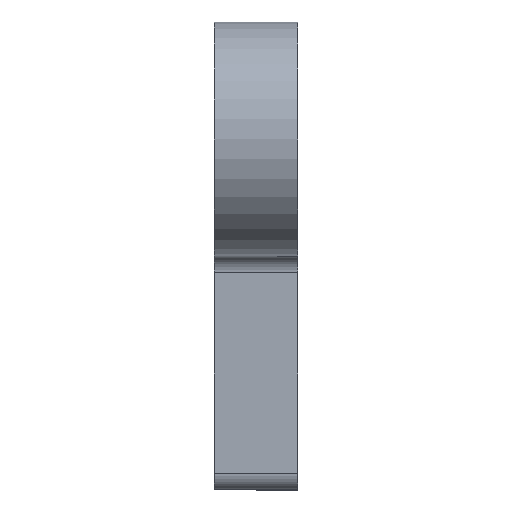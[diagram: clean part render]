
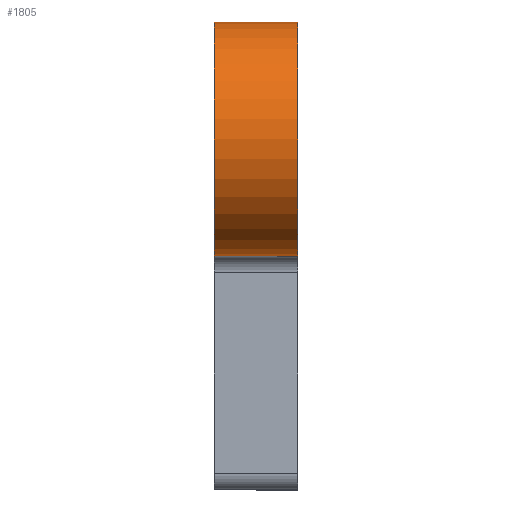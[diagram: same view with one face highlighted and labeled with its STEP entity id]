
A CAD part, left-side view. The second image highlights one B-rep face of the part: STEP entity #1805.
In plain terms, the highlighted cylindrical face has radius 7 mm (diameter 14 mm), a partial arc.
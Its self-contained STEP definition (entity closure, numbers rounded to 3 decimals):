
#112=FACE_OUTER_BOUND('',#212,.T.);
#212=EDGE_LOOP('',(#1232,#1233,#1234,#1235));
#330=LINE('',#2689,#514);
#331=LINE('',#2692,#515);
#514=VECTOR('',#2121,10.);
#515=VECTOR('',#2124,10.);
#698=CIRCLE('',#1922,7.);
#699=CIRCLE('',#1923,7.);
#786=VERTEX_POINT('',#2685);
#787=VERTEX_POINT('',#2686);
#788=VERTEX_POINT('',#2688);
#789=VERTEX_POINT('',#2690);
#960=EDGE_CURVE('',#786,#787,#698,.T.);
#961=EDGE_CURVE('',#788,#786,#330,.T.);
#962=EDGE_CURVE('',#788,#789,#699,.T.);
#963=EDGE_CURVE('',#789,#787,#331,.T.);
#1232=ORIENTED_EDGE('',*,*,#960,.F.);
#1233=ORIENTED_EDGE('',*,*,#961,.F.);
#1234=ORIENTED_EDGE('',*,*,#962,.T.);
#1235=ORIENTED_EDGE('',*,*,#963,.T.);
#1776=CYLINDRICAL_SURFACE('',#1921,7.);
#1805=ADVANCED_FACE('',(#112),#1776,.T.);
#1921=AXIS2_PLACEMENT_3D('',#2684,#2117,#2118);
#1922=AXIS2_PLACEMENT_3D('',#2687,#2119,#2120);
#1923=AXIS2_PLACEMENT_3D('',#2691,#2122,#2123);
#2117=DIRECTION('center_axis',(0.,0.,1.));
#2118=DIRECTION('ref_axis',(-1.,0.,0.));
#2119=DIRECTION('center_axis',(0.,0.,1.));
#2120=DIRECTION('ref_axis',(-1.,0.,0.));
#2121=DIRECTION('',(0.,0.,1.));
#2122=DIRECTION('center_axis',(0.,0.,1.));
#2123=DIRECTION('ref_axis',(-1.,0.,0.));
#2124=DIRECTION('',(0.,0.,1.));
#2684=CARTESIAN_POINT('Origin',(-21.,-61.,0.));
#2685=CARTESIAN_POINT('',(-28.,-61.,5.));
#2686=CARTESIAN_POINT('',(-14.,-61.,5.));
#2687=CARTESIAN_POINT('Origin',(-21.,-61.,5.));
#2688=CARTESIAN_POINT('',(-28.,-61.,0.));
#2689=CARTESIAN_POINT('',(-28.,-61.,0.));
#2690=CARTESIAN_POINT('',(-14.,-61.,0.));
#2691=CARTESIAN_POINT('Origin',(-21.,-61.,0.));
#2692=CARTESIAN_POINT('',(-14.,-61.,0.));
